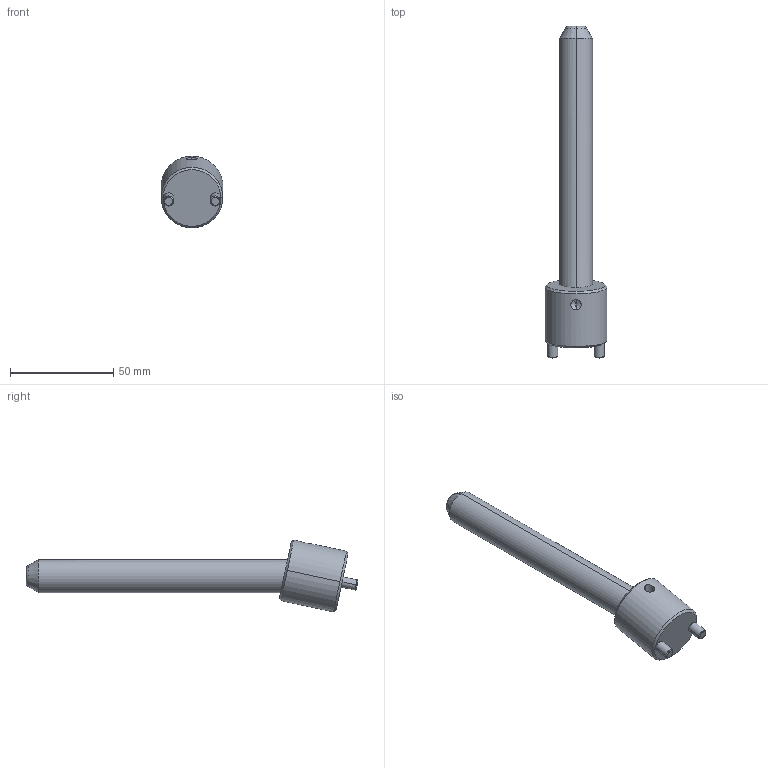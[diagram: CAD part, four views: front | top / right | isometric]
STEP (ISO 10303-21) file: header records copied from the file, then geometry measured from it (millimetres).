
FILE_DESCRIPTION(('CATIA V5 STEP Exchange'),'2;1');
FILE_NAME('C:\Users\Raffaele\Desktop\3D BOLEX\3D FILES CF BOLEX\19-INCLINED ASSEMBLY REF_CI\CI1216125.stp','2019-06-21T14:03:28+00:00',('none'),('none'),'CATIA Version 5 Release 20 GA (IN-10)','CATIA V5 STEP AP203','none');
FILE_SCHEMA(('CONFIG_CONTROL_DESIGN'));
Length unit declared in the file: millimetre
Products named in the file (1): CI1216125
Assembly tree (2 placements, depth 2):
  CI1216125
    #58
    #578
Bounding box: 30 x 160.76 x 34.75 mm (x, y, z)
Volume: 44376.4 mm3; surface area: 13226.9 mm2
Topology: 2 solids, 2 shells, 39 faces, 82 edges, 47 vertices
Faces by surface type: cone 14, cylinder 14, plane 7, torus 4
Entity records: 1458 total; most frequent: CARTESIAN_POINT 597, ORIENTED_EDGE 160, DIRECTION 146, EDGE_CURVE 80, AXIS2_PLACEMENT_3D 73, VERTEX_POINT 47, EDGE_LOOP 43, ADVANCED_FACE 39
